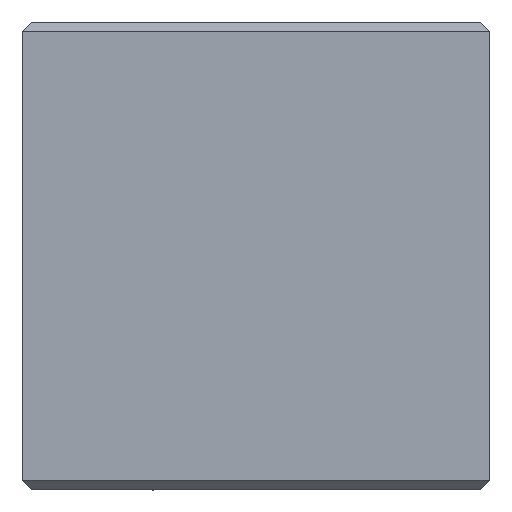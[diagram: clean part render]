
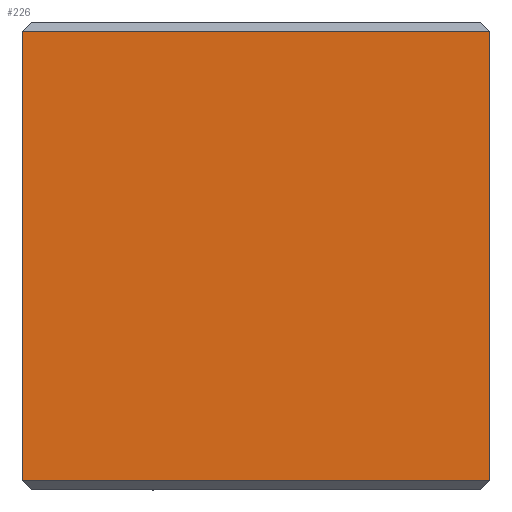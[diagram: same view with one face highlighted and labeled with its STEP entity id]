
A CAD part, front view. The second image highlights one B-rep face of the part: STEP entity #226.
In plain terms, the highlighted planar face has unit normal (0, -1, 0).
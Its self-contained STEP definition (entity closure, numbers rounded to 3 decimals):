
#62=CARTESIAN_POINT('Vertex',(25.,0.,49.)) ;
#95=CARTESIAN_POINT('Line Origine',(0.,0.,49.)) ;
#99=CARTESIAN_POINT('Vertex',(-25.,0.,49.)) ;
#184=CARTESIAN_POINT('Line Origine',(25.,0.,25.)) ;
#188=CARTESIAN_POINT('Vertex',(25.,0.,1.)) ;
#203=CARTESIAN_POINT('Axis2P3D Location',(0.,0.,0.)) ;
#208=CARTESIAN_POINT('Line Origine',(0.,0.,1.)) ;
#212=CARTESIAN_POINT('Vertex',(-25.,0.,1.)) ;
#215=CARTESIAN_POINT('Line Origine',(-25.,0.,25.)) ;
#96=DIRECTION('Vector Direction',(1.,0.,0.)) ;
#185=DIRECTION('Vector Direction',(0.,0.,-1.)) ;
#204=DIRECTION('Axis2P3D Direction',(0.,1.,0.)) ;
#205=DIRECTION('Axis2P3D XDirection',(-1.,0.,0.)) ;
#209=DIRECTION('Vector Direction',(-1.,0.,0.)) ;
#216=DIRECTION('Vector Direction',(0.,0.,1.)) ;
#206=AXIS2_PLACEMENT_3D('Plane Axis2P3D',#203,#204,#205) ;
#221=ORIENTED_EDGE('',*,*,#214,.T.) ;
#222=ORIENTED_EDGE('',*,*,#190,.F.) ;
#223=ORIENTED_EDGE('',*,*,#101,.T.) ;
#224=ORIENTED_EDGE('',*,*,#219,.F.) ;
#97=VECTOR('Line Direction',#96,1.) ;
#186=VECTOR('Line Direction',#185,1.) ;
#210=VECTOR('Line Direction',#209,1.) ;
#217=VECTOR('Line Direction',#216,1.) ;
#226=ADVANCED_FACE('\X2\96F64EF651E04F554F53\X0\',(#225),#207,.F.) ;
#101=EDGE_CURVE('',#63,#100,#98,.F.) ;
#190=EDGE_CURVE('',#63,#189,#187,.T.) ;
#214=EDGE_CURVE('',#213,#189,#211,.F.) ;
#219=EDGE_CURVE('',#213,#100,#218,.T.) ;
#220=EDGE_LOOP('',(#221,#222,#223,#224)) ;
#225=FACE_OUTER_BOUND('',#220,.T.) ;
#98=LINE('Line',#95,#97) ;
#187=LINE('Line',#184,#186) ;
#211=LINE('Line',#208,#210) ;
#218=LINE('Line',#215,#217) ;
#207=PLANE('Plane',#206) ;
#63=VERTEX_POINT('',#62) ;
#100=VERTEX_POINT('',#99) ;
#189=VERTEX_POINT('',#188) ;
#213=VERTEX_POINT('',#212) ;
